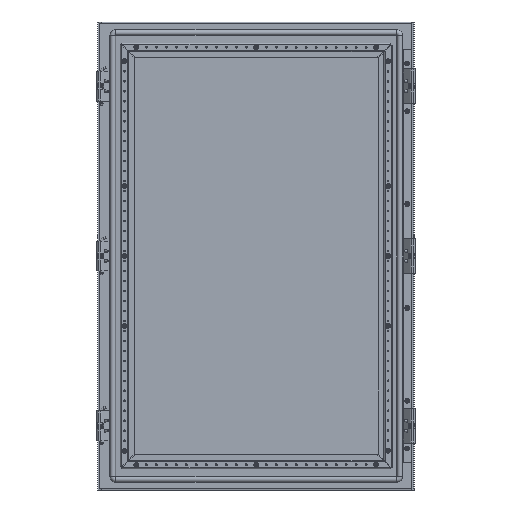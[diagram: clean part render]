
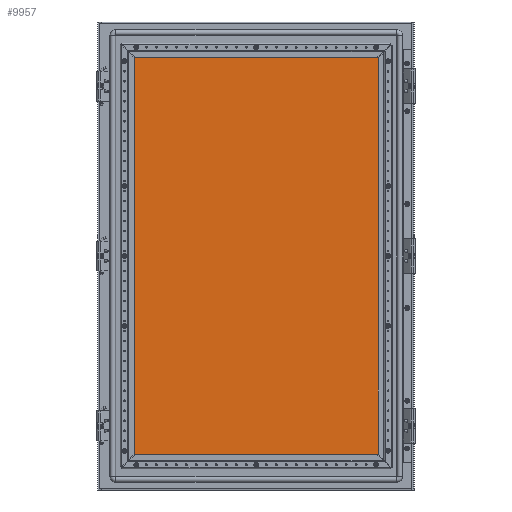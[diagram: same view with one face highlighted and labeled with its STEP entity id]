
A CAD part, left-side view. The second image highlights one B-rep face of the part: STEP entity #9957.
In plain terms, the highlighted planar face has unit normal (-1, 0, 0).
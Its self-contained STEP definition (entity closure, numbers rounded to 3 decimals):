
#9957=ADVANCED_FACE('',(#27926),#27928,.T.);
#27926=FACE_BOUND('',#27927,.T.);
#27927=EDGE_LOOP('',(#33730,#33731,#33732,#33733));
#27928=PLANE('',#27929);
#27929=AXIS2_PLACEMENT_3D('',#27930,#27931,#27932);
#27930=CARTESIAN_POINT('',(-5.5,0.,0.));
#27931=DIRECTION('',(-1.,0.,0.));
#27932=DIRECTION('',(0.,0.,-1.));
#33730=ORIENTED_EDGE('',*,*,#36627,.T.);
#33731=ORIENTED_EDGE('',*,*,#36631,.T.);
#33732=ORIENTED_EDGE('',*,*,#36634,.T.);
#33733=ORIENTED_EDGE('',*,*,#36636,.T.);
#36627=EDGE_CURVE('',#41446,#41444,#41447,.T.);
#36631=EDGE_CURVE('',#41444,#41451,#41453,.T.);
#36634=EDGE_CURVE('',#41451,#41456,#41458,.T.);
#36636=EDGE_CURVE('',#41456,#41446,#41460,.T.);
#41444=VERTEX_POINT('',#66199);
#41446=VERTEX_POINT('',#66203);
#41447=LINE('',#66204,#66205);
#41451=VERTEX_POINT('',#66214);
#41453=LINE('',#66218,#66219);
#41456=VERTEX_POINT('',#66225);
#41458=LINE('',#66229,#66230);
#41460=LINE('',#66235,#66236);
#66199=CARTESIAN_POINT('',(-5.5,-320.,-512.5));
#66203=CARTESIAN_POINT('',(-5.5,320.,-512.5));
#66204=CARTESIAN_POINT('',(-5.5,320.,-512.5));
#66205=VECTOR('',#66206,1.);
#66206=DIRECTION('',(0.,-1.,0.));
#66214=CARTESIAN_POINT('',(-5.5,-320.,512.5));
#66218=CARTESIAN_POINT('',(-5.5,-320.,-512.5));
#66219=VECTOR('',#66220,1.);
#66220=DIRECTION('',(0.,0.,1.));
#66225=CARTESIAN_POINT('',(-5.5,320.,512.5));
#66229=CARTESIAN_POINT('',(-5.5,-320.,512.5));
#66230=VECTOR('',#66231,1.);
#66231=DIRECTION('',(0.,1.,0.));
#66235=CARTESIAN_POINT('',(-5.5,320.,512.5));
#66236=VECTOR('',#66237,1.);
#66237=DIRECTION('',(0.,0.,-1.));
